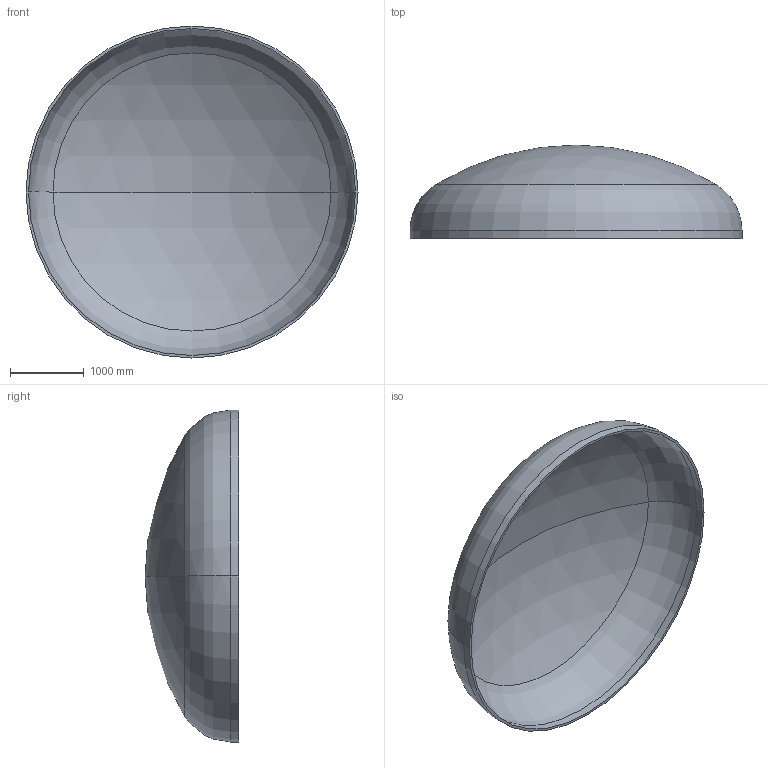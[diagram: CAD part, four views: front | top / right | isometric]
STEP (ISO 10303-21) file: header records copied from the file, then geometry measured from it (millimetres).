
FILE_DESCRIPTION (( 'STEP AP203' ), '1' );
FILE_NAME ('DIN 28013 Korbbogenform_-_Boden DIN 28013 - 4500 x 110 - I - s=34.step', '2016-07-01T23:19:38', ( '' ), ( '' ), 'SwSTEP 2.0', 'SolidWorks 2013', '' );
FILE_SCHEMA (( 'CONFIG_CONTROL_DESIGN' ));
Length unit declared in the file: millimetre
Products named in the file (1): DIN 28013 Korbbogenform_-_Boden DIN 28013 - 4500 x 110 - I - s=34
Bounding box: 4500 x 1269.01 x 4500 mm (x, y, z)
Volume: 794379671.4 mm3; surface area: 47207651.4 mm2
Topology: 1 solids, 1 shells, 13 faces, 24 edges, 14 vertices
Faces by surface type: torus 4, cylinder 4, sphere 4, plane 1
Entity records: 407 total; most frequent: DIRECTION 72, CARTESIAN_POINT 52, ORIENTED_EDGE 48, AXIS2_PLACEMENT_3D 34, EDGE_CURVE 24, CIRCLE 20, VERTEX_POINT 14, EDGE_LOOP 14
